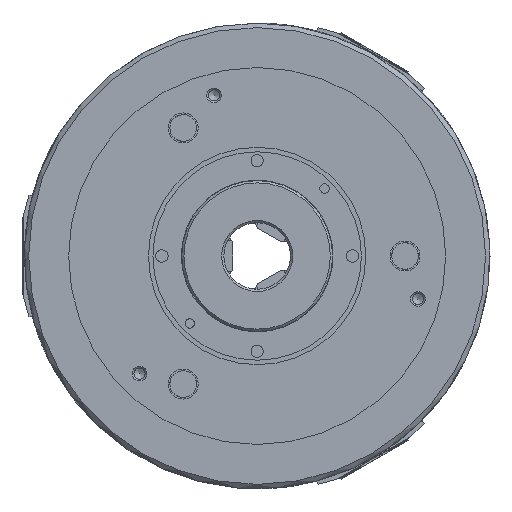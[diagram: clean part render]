
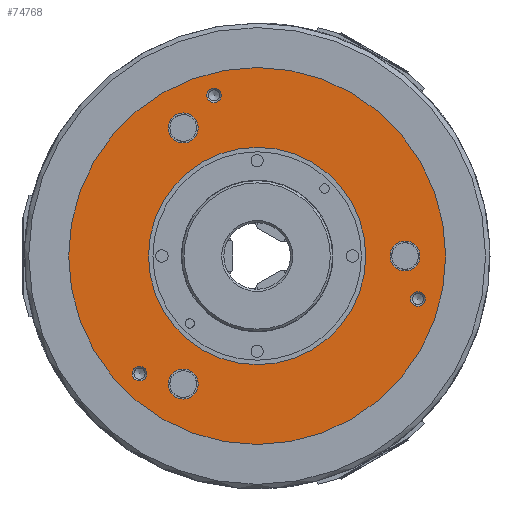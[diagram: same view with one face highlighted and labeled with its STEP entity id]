
A CAD part, left-side view. The second image highlights one B-rep face of the part: STEP entity #74768.
In plain terms, the highlighted planar face has unit normal (-1, 0, 0).
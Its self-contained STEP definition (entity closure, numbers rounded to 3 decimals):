
#289 = FACE_BOUND ( 'NONE', #32524, .T. ) ;
#951 = VERTEX_POINT ( 'NONE', #55117 ) ;
#2089 = CARTESIAN_POINT ( 'NONE',  ( -87., 33.338, -57.742 ) ) ;
#2373 = ORIENTED_EDGE ( 'NONE', *, *, #73638, .F. ) ;
#2618 = DIRECTION ( 'NONE',  ( 0., 0., 1. ) ) ;
#3315 = CARTESIAN_POINT ( 'NONE',  ( -87., 33.338, 57.742 ) ) ;
#3970 = CARTESIAN_POINT ( 'NONE',  ( -87., 33.338, 64.492 ) ) ;
#5577 = AXIS2_PLACEMENT_3D ( 'NONE', #13459, #54236, #2618 ) ;
#5835 = CARTESIAN_POINT ( 'NONE',  ( -87., 53.033, -49.733 ) ) ;
#6482 = VERTEX_POINT ( 'NONE', #5835 ) ;
#7220 = AXIS2_PLACEMENT_3D ( 'NONE', #2089, #41807, #48633 ) ;
#7328 = CIRCLE ( 'NONE', #31797, 85. ) ;
#7404 = CARTESIAN_POINT ( 'NONE',  ( -87., 19.411, 72.444 ) ) ;
#9666 = ORIENTED_EDGE ( 'NONE', *, *, #66650, .F. ) ;
#13459 = CARTESIAN_POINT ( 'NONE',  ( -87., -66.675, 0. ) ) ;
#13507 = EDGE_CURVE ( 'NONE', #59918, #59918, #48010, .T. ) ;
#14122 = CIRCLE ( 'NONE', #27251, 49. ) ;
#14853 = CARTESIAN_POINT ( 'NONE',  ( -87., 19.411, 75.744 ) ) ;
#15556 = ORIENTED_EDGE ( 'NONE', *, *, #13507, .F. ) ;
#18339 = FACE_BOUND ( 'NONE', #31326, .T. ) ;
#20787 = VERTEX_POINT ( 'NONE', #67069 ) ;
#20813 = EDGE_LOOP ( 'NONE', ( #66586 ) ) ;
#20891 = EDGE_CURVE ( 'NONE', #6482, #6482, #59450, .T. ) ;
#21674 = VERTEX_POINT ( 'NONE', #21908 ) ;
#21908 = CARTESIAN_POINT ( 'NONE',  ( -87., 33.338, -50.992 ) ) ;
#23405 = ORIENTED_EDGE ( 'NONE', *, *, #68770, .F. ) ;
#24429 = VERTEX_POINT ( 'NONE', #3970 ) ;
#25704 = ORIENTED_EDGE ( 'NONE', *, *, #67573, .F. ) ;
#27251 = AXIS2_PLACEMENT_3D ( 'NONE', #51448, #45381, #62829 ) ;
#27397 = FACE_BOUND ( 'NONE', #32141, .T. ) ;
#27701 = CARTESIAN_POINT ( 'NONE',  ( -87., 0., 0. ) ) ;
#29836 = DIRECTION ( 'NONE',  ( 0., 0., 1. ) ) ;
#30687 = AXIS2_PLACEMENT_3D ( 'NONE', #3315, #32153, #72705 ) ;
#31326 = EDGE_LOOP ( 'NONE', ( #46223 ) ) ;
#31797 = AXIS2_PLACEMENT_3D ( 'NONE', #27701, #62657, #68511 ) ;
#32141 = EDGE_LOOP ( 'NONE', ( #2373 ) ) ;
#32153 = DIRECTION ( 'NONE',  ( -1., 0., 0. ) ) ;
#32524 = EDGE_LOOP ( 'NONE', ( #23405 ) ) ;
#32894 = FACE_BOUND ( 'NONE', #20813, .T. ) ;
#33720 = FACE_BOUND ( 'NONE', #51552, .T. ) ;
#38398 = DIRECTION ( 'NONE',  ( 0., 0., 1. ) ) ;
#39778 = DIRECTION ( 'NONE',  ( -1., 0., 0. ) ) ;
#41740 = DIRECTION ( 'NONE',  ( -1., 0., 0. ) ) ;
#41807 = DIRECTION ( 'NONE',  ( -1., 0., 0. ) ) ;
#42849 = CIRCLE ( 'NONE', #5577, 6.75 ) ;
#42996 = CARTESIAN_POINT ( 'NONE',  ( -87., -66.675, 6.75 ) ) ;
#43938 = CIRCLE ( 'NONE', #30687, 6.75 ) ;
#45296 = AXIS2_PLACEMENT_3D ( 'NONE', #7404, #54463, #71470 ) ;
#45381 = DIRECTION ( 'NONE',  ( 1., 0., 0. ) ) ;
#46223 = ORIENTED_EDGE ( 'NONE', *, *, #57404, .T. ) ;
#46829 = CARTESIAN_POINT ( 'NONE',  ( -87., -72.444, -16.111 ) ) ;
#48010 = CIRCLE ( 'NONE', #72817, 3.3 ) ;
#48633 = DIRECTION ( 'NONE',  ( 0., 0., 1. ) ) ;
#48964 = VERTEX_POINT ( 'NONE', #42996 ) ;
#49164 = FACE_BOUND ( 'NONE', #74033, .T. ) ;
#49817 = CARTESIAN_POINT ( 'NONE',  ( -87., 53.033, -53.033 ) ) ;
#50088 = FACE_BOUND ( 'NONE', #54680, .T. ) ;
#50680 = CARTESIAN_POINT ( 'NONE',  ( -87., 85., 0. ) ) ;
#51448 = CARTESIAN_POINT ( 'NONE',  ( -87., 0., 0. ) ) ;
#51552 = EDGE_LOOP ( 'NONE', ( #9666 ) ) ;
#54236 = DIRECTION ( 'NONE',  ( -1., 0., 0. ) ) ;
#54463 = DIRECTION ( 'NONE',  ( -1., 0., 0. ) ) ;
#54680 = EDGE_LOOP ( 'NONE', ( #15556 ) ) ;
#55117 = CARTESIAN_POINT ( 'NONE',  ( -87., 0., -49. ) ) ;
#57404 = EDGE_CURVE ( 'NONE', #951, #951, #14122, .T. ) ;
#59421 = EDGE_CURVE ( 'NONE', #48964, #48964, #42849, .T. ) ;
#59450 = CIRCLE ( 'NONE', #61595, 3.3 ) ;
#59723 = EDGE_LOOP ( 'NONE', ( #25704 ) ) ;
#59918 = VERTEX_POINT ( 'NONE', #46829 ) ;
#61595 = AXIS2_PLACEMENT_3D ( 'NONE', #49817, #67336, #38398 ) ;
#62579 = DIRECTION ( 'NONE',  ( 0., 0., 1. ) ) ;
#62657 = DIRECTION ( 'NONE',  ( 1., 0., 0. ) ) ;
#62725 = FACE_OUTER_BOUND ( 'NONE', #59723, .T. ) ;
#62829 = DIRECTION ( 'NONE',  ( 0., 0., -1. ) ) ;
#65239 = VERTEX_POINT ( 'NONE', #14853 ) ;
#65362 = ORIENTED_EDGE ( 'NONE', *, *, #20891, .F. ) ;
#65546 = CARTESIAN_POINT ( 'NONE',  ( -87., -72.444, -19.411 ) ) ;
#66586 = ORIENTED_EDGE ( 'NONE', *, *, #59421, .F. ) ;
#66650 = EDGE_CURVE ( 'NONE', #65239, #65239, #73109, .T. ) ;
#67069 = CARTESIAN_POINT ( 'NONE',  ( -87., 0., -85. ) ) ;
#67336 = DIRECTION ( 'NONE',  ( -1., 0., 0. ) ) ;
#67573 = EDGE_CURVE ( 'NONE', #20787, #20787, #7328, .T. ) ;
#68511 = DIRECTION ( 'NONE',  ( 0., 0., -1. ) ) ;
#68770 = EDGE_CURVE ( 'NONE', #21674, #21674, #75056, .T. ) ;
#69183 = PLANE ( 'NONE',  #71983 ) ;
#71470 = DIRECTION ( 'NONE',  ( 0., 0., 1. ) ) ;
#71983 = AXIS2_PLACEMENT_3D ( 'NONE', #50680, #39778, #62579 ) ;
#72705 = DIRECTION ( 'NONE',  ( 0., 0., 1. ) ) ;
#72817 = AXIS2_PLACEMENT_3D ( 'NONE', #65546, #41740, #29836 ) ;
#73109 = CIRCLE ( 'NONE', #45296, 3.3 ) ;
#73638 = EDGE_CURVE ( 'NONE', #24429, #24429, #43938, .T. ) ;
#74033 = EDGE_LOOP ( 'NONE', ( #65362 ) ) ;
#74768 = ADVANCED_FACE ( 'NONE', ( #33720, #50088, #49164, #27397, #32894, #289, #18339, #62725 ), #69183, .T. ) ;
#75056 = CIRCLE ( 'NONE', #7220, 6.75 ) ;
